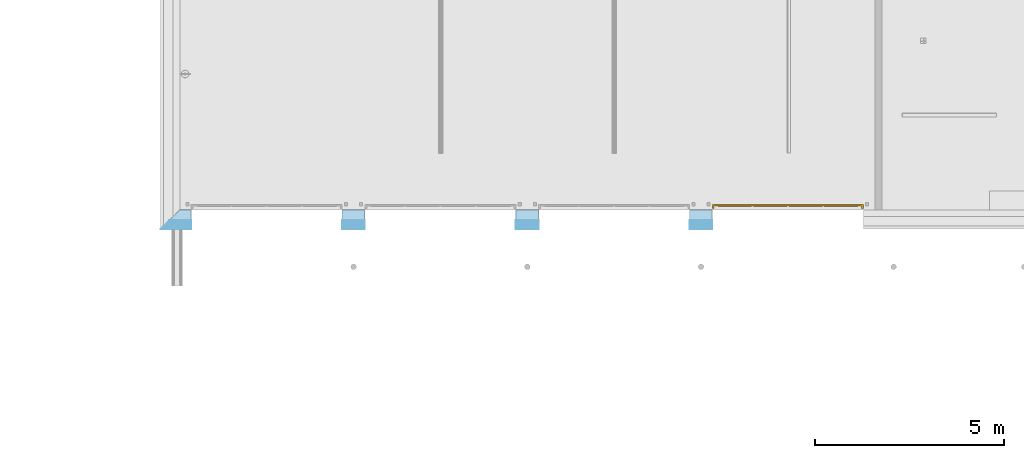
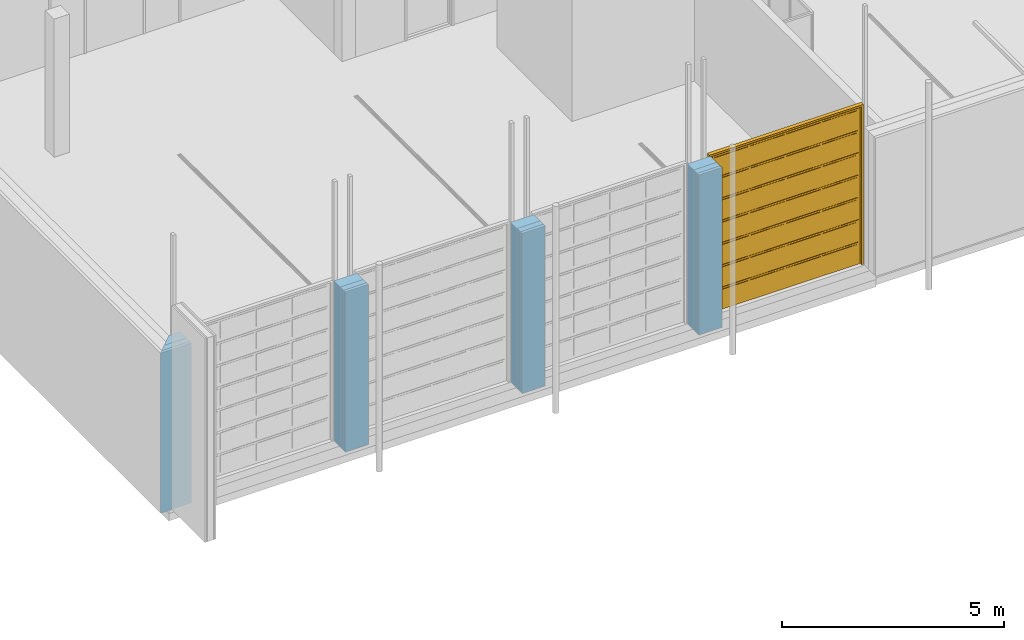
# One storey, part 23 of 112: 1 door, 4 openings, 1 element without a shape of its own, plus 3 elements that do not belong to this part.
"""IFC2X3 building model written with IfcOpenShell, lengths in millimetres."""

from ifc_helpers import new_model, entity, si_unit, converted_unit, derived_unit, money_unit, direction, frame, origin_with_axes, origin_2d_with_axis, place, context, subcontext, project, spatial, polyline, rectangle, outline, extrude, faceted_brep, source, transform, mapped, material, type_object, element, fill, aggregate, save


model = new_model("IFC2X3")

# Units and contexts
model_context = context("Model", 3, precision=0.01, world=origin_with_axes(), true_north=direction((0.0, 1.0)))
body_context = subcontext(model_context, "Body", "Model", "MODEL_VIEW")
ifc_project = project(units=[si_unit("LENGTHUNIT", "METRE", prefix="MILLI"), si_unit("AREAUNIT", "SQUARE_METRE"), si_unit("VOLUMEUNIT", "CUBIC_METRE"), converted_unit("PLANEANGLEUNIT", "DEGREE", entity("IfcPlaneAngleMeasure", 0.0174532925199), si_unit("PLANEANGLEUNIT", "RADIAN"), dimensions=[0, 0, 0, 0, 0, 0, 0]), si_unit("SOLIDANGLEUNIT", "STERADIAN"), money_unit("EUR"), converted_unit("TIMEUNIT", "Year", entity("IfcTimeMeasure", 31556926.0), si_unit("TIMEUNIT", "SECOND"), dimensions=[0, 0, 1, 0, 0, 0, 0]), si_unit("MASSUNIT", "GRAM", prefix="KILO"), si_unit("THERMODYNAMICTEMPERATUREUNIT", "DEGREE_CELSIUS"), si_unit("LUMINOUSINTENSITYUNIT", "LUMEN"), si_unit("ENERGYUNIT", "JOULE", prefix="MEGA"), derived_unit("THERMALCONDUCTANCEUNIT", [(si_unit("POWERUNIT", "WATT"), 1), (si_unit("LENGTHUNIT", "METRE"), -1), (si_unit("THERMODYNAMICTEMPERATUREUNIT", "KELVIN"), -1)]), derived_unit("SPECIFICHEATCAPACITYUNIT", [(si_unit("ENERGYUNIT", "JOULE"), 1), (si_unit("MASSUNIT", "GRAM", prefix="KILO"), -1), (si_unit("THERMODYNAMICTEMPERATUREUNIT", "KELVIN"), -1)]), derived_unit("MASSDENSITYUNIT", [(si_unit("MASSUNIT", "GRAM", prefix="KILO"), 1), (si_unit("VOLUMEUNIT", "CUBIC_METRE"), -1)])], contexts=[model_context])

# Site, building, storey
site_placement = place(None, origin_with_axes())
site = spatial("IfcSite", under=ifc_project, at=site_placement, Name="Politse- ja Piirivalveameti ning Päästeameti ühishoone", CompositionType="ELEMENT")
building_placement = place(site_placement, origin_with_axes())
building = spatial("IfcBuilding", under=site, at=building_placement, Name="Politse- ja Piirivalveameti ning Päästeameti ühishoone", CompositionType="ELEMENT")
storey_placement = place(building_placement, origin_with_axes())
storey = spatial("IfcBuildingStorey", under=building, at=storey_placement, Name="Esimene korrus", CompositionType="ELEMENT", Elevation=0.0)

# Door
door_style = type_object("IfcDoorStyle", Name="Vertical Sliding Garage Door 23", ConstructionType="NOTDEFINED", OperationType="ROLLINGUP", ParameterTakesPrecedence=False, Sizeable=False)
shared_shape = source(origin_with_axes(), body_context, "Body", "Brep", [
    faceted_brep([(2000.0, 0.0, 0.0), (2000.0, -100.0, 0.0), (1950.0, -100.0, 0.0), (1950.0, 0.0, 0.0), (2000.0, 0.0, 4350.0), (2000.0, -100.0, 4350.0), (1950.0, -100.0, 4350.0), (1950.0, 0.0, 4350.0)], [[[0, 1, 2, 3]], [[4, 5, 1, 0]], [[1, 5, 6, 2]], [[3, 2, 6, 7]], [[0, 3, 7, 4]], [[7, 6, 5, 4]]]),
    faceted_brep([(-2000.0, 0.0, 0.0), (-2000.0, -100.0, 0.0), (-2000.0, -100.0, 4350.0), (-2000.0, 0.0, 4350.0), (-1950.0, 0.0, 0.0), (-1950.0, -100.0, 0.0), (-1950.0, -100.0, 4350.0), (-1950.0, 0.0, 4350.0)], [[[0, 1, 2, 3]], [[4, 5, 1, 0]], [[1, 5, 6, 2]], [[3, 2, 6, 7]], [[0, 3, 7, 4]], [[7, 6, 5, 4]]]),
    faceted_brep([(2000.0, 0.0, 4400.0), (2000.0, -100.0, 4400.0), (2000.0, -100.0, 4350.0), (2000.0, 0.0, 4350.0), (-2000.0, 0.0, 4400.0), (-2000.0, -100.0, 4400.0), (-2000.0, -100.0, 4350.0), (-1950.0, -100.0, 4350.0), (1950.0, -100.0, 4350.0), (1950.0, 0.0, 4350.0), (-1950.0, 0.0, 4350.0), (-2000.0, 0.0, 4350.0)], [[[0, 1, 2, 3]], [[4, 5, 1, 0]], [[1, 5, 6, 7, 8, 2]], [[3, 2, 8, 9]], [[0, 3, 9, 10, 11, 4]], [[11, 6, 5, 4]], [[10, 7, 6, 11]], [[9, 8, 7, 10]]]),
    faceted_brep([(-1950.0, -5.5, 0.0), (1950.0, -5.5, 0.0), (1950.0, -35.5, 0.0), (-1950.0, -35.5, 0.0), (-1950.0, -5.5, 4350.0), (1950.0, -5.5, 4350.0), (1950.0, -35.5, 4350.0), (-1950.0, -35.5, 4350.0)], [[[0, 1, 2, 3]], [[0, 4, 5, 1]], [[1, 5, 6, 2]], [[3, 2, 6, 7]], [[4, 0, 3, 7]], [[5, 4, 7, 6]]]),
    faceted_brep([(1900.0, -35.5, 50.0), (-1900.0, -35.5, 50.0), (-1900.0, -35.5, 614.285714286), (1900.0, -35.5, 614.285714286), (1900.0, -45.5, 50.0), (-1900.0, -45.5, 50.0), (-1900.0, -45.5, 614.285714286), (1900.0, -45.5, 614.285714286)], [[[0, 1, 2, 3]], [[1, 0, 4, 5]], [[2, 1, 5, 6]], [[3, 2, 6, 7]], [[0, 3, 7, 4]], [[5, 4, 7, 6]]]),
    faceted_brep([(-962.5, -45.5, 100.0), (-1850.0, -45.5, 100.0), (-1850.0, -45.5, 564.285714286), (-962.5, -45.5, 564.285714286), (-962.5, -55.5, 100.0), (-1850.0, -55.5, 100.0), (-1850.0, -55.5, 564.285714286), (-962.5, -55.5, 564.285714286)], [[[0, 1, 2, 3]], [[1, 0, 4, 5]], [[2, 1, 5, 6]], [[3, 2, 6, 7]], [[0, 3, 7, 4]], [[5, 4, 7, 6]]]),
    faceted_brep([(-25.0, -45.5, 100.0), (-912.5, -45.5, 100.0), (-912.5, -45.5, 564.285714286), (-25.0, -45.5, 564.285714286), (-25.0, -55.5, 100.0), (-912.5, -55.5, 100.0), (-912.5, -55.5, 564.285714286), (-25.0, -55.5, 564.285714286)], [[[0, 1, 2, 3]], [[1, 0, 4, 5]], [[2, 1, 5, 6]], [[3, 2, 6, 7]], [[0, 3, 7, 4]], [[5, 4, 7, 6]]]),
    faceted_brep([(912.5, -45.5, 100.0), (25.0, -45.5, 100.0), (25.0, -45.5, 564.285714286), (912.5, -45.5, 564.285714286), (912.5, -55.5, 100.0), (25.0, -55.5, 100.0), (25.0, -55.5, 564.285714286), (912.5, -55.5, 564.285714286)], [[[0, 1, 2, 3]], [[1, 0, 4, 5]], [[2, 1, 5, 6]], [[3, 2, 6, 7]], [[0, 3, 7, 4]], [[5, 4, 7, 6]]]),
    faceted_brep([(1850.0, -45.5, 100.0), (962.5, -45.5, 100.0), (962.5, -45.5, 564.285714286), (1850.0, -45.5, 564.285714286), (1850.0, -55.5, 100.0), (962.5, -55.5, 100.0), (962.5, -55.5, 564.285714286), (1850.0, -55.5, 564.285714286)], [[[0, 1, 2, 3]], [[1, 0, 4, 5]], [[2, 1, 5, 6]], [[3, 2, 6, 7]], [[0, 3, 7, 4]], [[5, 4, 7, 6]]]),
    faceted_brep([(1900.0, -35.5, 664.285714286), (-1900.0, -35.5, 664.285714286), (-1900.0, -35.5, 1228.57142857), (1900.0, -35.5, 1228.57142857), (1900.0, -45.5, 664.285714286), (-1900.0, -45.5, 664.285714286), (-1900.0, -45.5, 1228.57142857), (1900.0, -45.5, 1228.57142857)], [[[0, 1, 2, 3]], [[1, 0, 4, 5]], [[2, 1, 5, 6]], [[3, 2, 6, 7]], [[0, 3, 7, 4]], [[5, 4, 7, 6]]]),
    faceted_brep([(-962.5, -45.5, 714.285714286), (-1850.0, -45.5, 714.285714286), (-1850.0, -45.5, 1178.57142857), (-962.5, -45.5, 1178.57142857), (-962.5, -55.5, 714.285714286), (-1850.0, -55.5, 714.285714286), (-1850.0, -55.5, 1178.57142857), (-962.5, -55.5, 1178.57142857)], [[[0, 1, 2, 3]], [[1, 0, 4, 5]], [[2, 1, 5, 6]], [[3, 2, 6, 7]], [[0, 3, 7, 4]], [[5, 4, 7, 6]]]),
    faceted_brep([(-25.0, -45.5, 714.285714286), (-912.5, -45.5, 714.285714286), (-912.5, -45.5, 1178.57142857), (-25.0, -45.5, 1178.57142857), (-25.0, -55.5, 714.285714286), (-912.5, -55.5, 714.285714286), (-912.5, -55.5, 1178.57142857), (-25.0, -55.5, 1178.57142857)], [[[0, 1, 2, 3]], [[1, 0, 4, 5]], [[2, 1, 5, 6]], [[3, 2, 6, 7]], [[0, 3, 7, 4]], [[5, 4, 7, 6]]]),
    faceted_brep([(912.5, -45.5, 714.285714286), (25.0, -45.5, 714.285714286), (25.0, -45.5, 1178.57142857), (912.5, -45.5, 1178.57142857), (912.5, -55.5, 714.285714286), (25.0, -55.5, 714.285714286), (25.0, -55.5, 1178.57142857), (912.5, -55.5, 1178.57142857)], [[[0, 1, 2, 3]], [[1, 0, 4, 5]], [[2, 1, 5, 6]], [[3, 2, 6, 7]], [[0, 3, 7, 4]], [[5, 4, 7, 6]]]),
    faceted_brep([(1850.0, -45.5, 714.285714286), (962.5, -45.5, 714.285714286), (962.5, -45.5, 1178.57142857), (1850.0, -45.5, 1178.57142857), (1850.0, -55.5, 714.285714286), (962.5, -55.5, 714.285714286), (962.5, -55.5, 1178.57142857), (1850.0, -55.5, 1178.57142857)], [[[0, 1, 2, 3]], [[1, 0, 4, 5]], [[2, 1, 5, 6]], [[3, 2, 6, 7]], [[0, 3, 7, 4]], [[5, 4, 7, 6]]]),
    faceted_brep([(1900.0, -35.5, 1278.57142857), (-1900.0, -35.5, 1278.57142857), (-1900.0, -35.5, 1842.85714286), (1900.0, -35.5, 1842.85714286), (1900.0, -45.5, 1278.57142857), (-1900.0, -45.5, 1278.57142857), (-1900.0, -45.5, 1842.85714286), (1900.0, -45.5, 1842.85714286)], [[[0, 1, 2, 3]], [[1, 0, 4, 5]], [[2, 1, 5, 6]], [[3, 2, 6, 7]], [[0, 3, 7, 4]], [[5, 4, 7, 6]]]),
    faceted_brep([(-962.5, -45.5, 1328.57142857), (-1850.0, -45.5, 1328.57142857), (-1850.0, -45.5, 1792.85714286), (-962.5, -45.5, 1792.85714286), (-962.5, -55.5, 1328.57142857), (-1850.0, -55.5, 1328.57142857), (-1850.0, -55.5, 1792.85714286), (-962.5, -55.5, 1792.85714286)], [[[0, 1, 2, 3]], [[1, 0, 4, 5]], [[2, 1, 5, 6]], [[3, 2, 6, 7]], [[0, 3, 7, 4]], [[5, 4, 7, 6]]]),
    faceted_brep([(-25.0, -45.5, 1328.57142857), (-912.5, -45.5, 1328.57142857), (-912.5, -45.5, 1792.85714286), (-25.0, -45.5, 1792.85714286), (-25.0, -55.5, 1328.57142857), (-912.5, -55.5, 1328.57142857), (-912.5, -55.5, 1792.85714286), (-25.0, -55.5, 1792.85714286)], [[[0, 1, 2, 3]], [[1, 0, 4, 5]], [[2, 1, 5, 6]], [[3, 2, 6, 7]], [[0, 3, 7, 4]], [[5, 4, 7, 6]]]),
    faceted_brep([(912.5, -45.5, 1328.57142857), (25.0, -45.5, 1328.57142857), (25.0, -45.5, 1792.85714286), (912.5, -45.5, 1792.85714286), (912.5, -55.5, 1328.57142857), (25.0, -55.5, 1328.57142857), (25.0, -55.5, 1792.85714286), (912.5, -55.5, 1792.85714286)], [[[0, 1, 2, 3]], [[1, 0, 4, 5]], [[2, 1, 5, 6]], [[3, 2, 6, 7]], [[0, 3, 7, 4]], [[5, 4, 7, 6]]]),
    faceted_brep([(1850.0, -45.5, 1328.57142857), (962.5, -45.5, 1328.57142857), (962.5, -45.5, 1792.85714286), (1850.0, -45.5, 1792.85714286), (1850.0, -55.5, 1328.57142857), (962.5, -55.5, 1328.57142857), (962.5, -55.5, 1792.85714286), (1850.0, -55.5, 1792.85714286)], [[[0, 1, 2, 3]], [[1, 0, 4, 5]], [[2, 1, 5, 6]], [[3, 2, 6, 7]], [[0, 3, 7, 4]], [[5, 4, 7, 6]]]),
    faceted_brep([(1900.0, -35.5, 1892.85714286), (-1900.0, -35.5, 1892.85714286), (-1900.0, -35.5, 2457.14285714), (1900.0, -35.5, 2457.14285714), (1900.0, -45.5, 1892.85714286), (-1900.0, -45.5, 1892.85714286), (-1900.0, -45.5, 2457.14285714), (1900.0, -45.5, 2457.14285714)], [[[0, 1, 2, 3]], [[1, 0, 4, 5]], [[2, 1, 5, 6]], [[3, 2, 6, 7]], [[0, 3, 7, 4]], [[5, 4, 7, 6]]]),
    faceted_brep([(-962.5, -45.5, 1942.85714286), (-1850.0, -45.5, 1942.85714286), (-1850.0, -45.5, 2407.14285714), (-962.5, -45.5, 2407.14285714), (-962.5, -55.5, 1942.85714286), (-1850.0, -55.5, 1942.85714286), (-1850.0, -55.5, 2407.14285714), (-962.5, -55.5, 2407.14285714)], [[[0, 1, 2, 3]], [[1, 0, 4, 5]], [[2, 1, 5, 6]], [[3, 2, 6, 7]], [[0, 3, 7, 4]], [[5, 4, 7, 6]]]),
    faceted_brep([(-25.0, -45.5, 1942.85714286), (-912.5, -45.5, 1942.85714286), (-912.5, -45.5, 2407.14285714), (-25.0, -45.5, 2407.14285714), (-25.0, -55.5, 1942.85714286), (-912.5, -55.5, 1942.85714286), (-912.5, -55.5, 2407.14285714), (-25.0, -55.5, 2407.14285714)], [[[0, 1, 2, 3]], [[1, 0, 4, 5]], [[2, 1, 5, 6]], [[3, 2, 6, 7]], [[0, 3, 7, 4]], [[5, 4, 7, 6]]]),
    faceted_brep([(912.5, -45.5, 1942.85714286), (25.0, -45.5, 1942.85714286), (25.0, -45.5, 2407.14285714), (912.5, -45.5, 2407.14285714), (912.5, -55.5, 1942.85714286), (25.0, -55.5, 1942.85714286), (25.0, -55.5, 2407.14285714), (912.5, -55.5, 2407.14285714)], [[[0, 1, 2, 3]], [[1, 0, 4, 5]], [[2, 1, 5, 6]], [[3, 2, 6, 7]], [[0, 3, 7, 4]], [[5, 4, 7, 6]]]),
    faceted_brep([(1850.0, -45.5, 1942.85714286), (962.5, -45.5, 1942.85714286), (962.5, -45.5, 2407.14285714), (1850.0, -45.5, 2407.14285714), (1850.0, -55.5, 1942.85714286), (962.5, -55.5, 1942.85714286), (962.5, -55.5, 2407.14285714), (1850.0, -55.5, 2407.14285714)], [[[0, 1, 2, 3]], [[1, 0, 4, 5]], [[2, 1, 5, 6]], [[3, 2, 6, 7]], [[0, 3, 7, 4]], [[5, 4, 7, 6]]]),
    faceted_brep([(1900.0, -35.5, 2507.14285714), (-1900.0, -35.5, 2507.14285714), (-1900.0, -35.5, 3071.42857143), (1900.0, -35.5, 3071.42857143), (1900.0, -45.5, 2507.14285714), (-1900.0, -45.5, 2507.14285714), (-1900.0, -45.5, 3071.42857143), (1900.0, -45.5, 3071.42857143)], [[[0, 1, 2, 3]], [[1, 0, 4, 5]], [[2, 1, 5, 6]], [[3, 2, 6, 7]], [[0, 3, 7, 4]], [[5, 4, 7, 6]]]),
    faceted_brep([(-962.5, -45.5, 2557.14285714), (-1850.0, -45.5, 2557.14285714), (-1850.0, -45.5, 3021.42857143), (-962.5, -45.5, 3021.42857143), (-962.5, -55.5, 2557.14285714), (-1850.0, -55.5, 2557.14285714), (-1850.0, -55.5, 3021.42857143), (-962.5, -55.5, 3021.42857143)], [[[0, 1, 2, 3]], [[1, 0, 4, 5]], [[2, 1, 5, 6]], [[3, 2, 6, 7]], [[0, 3, 7, 4]], [[5, 4, 7, 6]]]),
    faceted_brep([(-25.0, -45.5, 2557.14285714), (-912.5, -45.5, 2557.14285714), (-912.5, -45.5, 3021.42857143), (-25.0, -45.5, 3021.42857143), (-25.0, -55.5, 2557.14285714), (-912.5, -55.5, 2557.14285714), (-912.5, -55.5, 3021.42857143), (-25.0, -55.5, 3021.42857143)], [[[0, 1, 2, 3]], [[1, 0, 4, 5]], [[2, 1, 5, 6]], [[3, 2, 6, 7]], [[0, 3, 7, 4]], [[5, 4, 7, 6]]]),
    faceted_brep([(912.5, -45.5, 2557.14285714), (25.0, -45.5, 2557.14285714), (25.0, -45.5, 3021.42857143), (912.5, -45.5, 3021.42857143), (912.5, -55.5, 2557.14285714), (25.0, -55.5, 2557.14285714), (25.0, -55.5, 3021.42857143), (912.5, -55.5, 3021.42857143)], [[[0, 1, 2, 3]], [[1, 0, 4, 5]], [[2, 1, 5, 6]], [[3, 2, 6, 7]], [[0, 3, 7, 4]], [[5, 4, 7, 6]]]),
    faceted_brep([(1850.0, -45.5, 2557.14285714), (962.5, -45.5, 2557.14285714), (962.5, -45.5, 3021.42857143), (1850.0, -45.5, 3021.42857143), (1850.0, -55.5, 2557.14285714), (962.5, -55.5, 2557.14285714), (962.5, -55.5, 3021.42857143), (1850.0, -55.5, 3021.42857143)], [[[0, 1, 2, 3]], [[1, 0, 4, 5]], [[2, 1, 5, 6]], [[3, 2, 6, 7]], [[0, 3, 7, 4]], [[5, 4, 7, 6]]]),
    faceted_brep([(1900.0, -35.5, 3121.42857143), (-1900.0, -35.5, 3121.42857143), (-1900.0, -35.5, 3685.71428571), (1900.0, -35.5, 3685.71428571), (1900.0, -45.5, 3121.42857143), (-1900.0, -45.5, 3121.42857143), (-1900.0, -45.5, 3685.71428571), (1900.0, -45.5, 3685.71428571)], [[[0, 1, 2, 3]], [[1, 0, 4, 5]], [[2, 1, 5, 6]], [[3, 2, 6, 7]], [[0, 3, 7, 4]], [[5, 4, 7, 6]]]),
    faceted_brep([(-962.5, -45.5, 3171.42857143), (-1850.0, -45.5, 3171.42857143), (-1850.0, -45.5, 3635.71428571), (-962.5, -45.5, 3635.71428571), (-962.5, -55.5, 3171.42857143), (-1850.0, -55.5, 3171.42857143), (-1850.0, -55.5, 3635.71428571), (-962.5, -55.5, 3635.71428571)], [[[0, 1, 2, 3]], [[1, 0, 4, 5]], [[2, 1, 5, 6]], [[3, 2, 6, 7]], [[0, 3, 7, 4]], [[5, 4, 7, 6]]]),
    faceted_brep([(-25.0, -45.5, 3171.42857143), (-912.5, -45.5, 3171.42857143), (-912.5, -45.5, 3635.71428571), (-25.0, -45.5, 3635.71428571), (-25.0, -55.5, 3171.42857143), (-912.5, -55.5, 3171.42857143), (-912.5, -55.5, 3635.71428571), (-25.0, -55.5, 3635.71428571)], [[[0, 1, 2, 3]], [[1, 0, 4, 5]], [[2, 1, 5, 6]], [[3, 2, 6, 7]], [[0, 3, 7, 4]], [[5, 4, 7, 6]]]),
    faceted_brep([(912.5, -45.5, 3171.42857143), (25.0, -45.5, 3171.42857143), (25.0, -45.5, 3635.71428571), (912.5, -45.5, 3635.71428571), (912.5, -55.5, 3171.42857143), (25.0, -55.5, 3171.42857143), (25.0, -55.5, 3635.71428571), (912.5, -55.5, 3635.71428571)], [[[0, 1, 2, 3]], [[1, 0, 4, 5]], [[2, 1, 5, 6]], [[3, 2, 6, 7]], [[0, 3, 7, 4]], [[5, 4, 7, 6]]]),
    faceted_brep([(1850.0, -45.5, 3171.42857143), (962.5, -45.5, 3171.42857143), (962.5, -45.5, 3635.71428571), (1850.0, -45.5, 3635.71428571), (1850.0, -55.5, 3171.42857143), (962.5, -55.5, 3171.42857143), (962.5, -55.5, 3635.71428571), (1850.0, -55.5, 3635.71428571)], [[[0, 1, 2, 3]], [[1, 0, 4, 5]], [[2, 1, 5, 6]], [[3, 2, 6, 7]], [[0, 3, 7, 4]], [[5, 4, 7, 6]]]),
    faceted_brep([(1900.0, -35.5, 3735.71428571), (-1900.0, -35.5, 3735.71428571), (-1900.0, -35.5, 4300.0), (1900.0, -35.5, 4300.0), (1900.0, -45.5, 3735.71428571), (-1900.0, -45.5, 3735.71428571), (-1900.0, -45.5, 4300.0), (1900.0, -45.5, 4300.0)], [[[0, 1, 2, 3]], [[1, 0, 4, 5]], [[2, 1, 5, 6]], [[3, 2, 6, 7]], [[0, 3, 7, 4]], [[5, 4, 7, 6]]]),
    faceted_brep([(-962.5, -45.5, 3785.71428571), (-1850.0, -45.5, 3785.71428571), (-1850.0, -45.5, 4250.0), (-962.5, -45.5, 4250.0), (-962.5, -55.5, 3785.71428571), (-1850.0, -55.5, 3785.71428571), (-1850.0, -55.5, 4250.0), (-962.5, -55.5, 4250.0)], [[[0, 1, 2, 3]], [[1, 0, 4, 5]], [[2, 1, 5, 6]], [[3, 2, 6, 7]], [[0, 3, 7, 4]], [[5, 4, 7, 6]]]),
    faceted_brep([(-25.0, -45.5, 3785.71428571), (-912.5, -45.5, 3785.71428571), (-912.5, -45.5, 4250.0), (-25.0, -45.5, 4250.0), (-25.0, -55.5, 3785.71428571), (-912.5, -55.5, 3785.71428571), (-912.5, -55.5, 4250.0), (-25.0, -55.5, 4250.0)], [[[0, 1, 2, 3]], [[1, 0, 4, 5]], [[2, 1, 5, 6]], [[3, 2, 6, 7]], [[0, 3, 7, 4]], [[5, 4, 7, 6]]]),
    faceted_brep([(912.5, -45.5, 3785.71428571), (25.0, -45.5, 3785.71428571), (25.0, -45.5, 4250.0), (912.5, -45.5, 4250.0), (912.5, -55.5, 3785.71428571), (25.0, -55.5, 3785.71428571), (25.0, -55.5, 4250.0), (912.5, -55.5, 4250.0)], [[[0, 1, 2, 3]], [[1, 0, 4, 5]], [[2, 1, 5, 6]], [[3, 2, 6, 7]], [[0, 3, 7, 4]], [[5, 4, 7, 6]]]),
    faceted_brep([(1850.0, -45.5, 3785.71428571), (962.5, -45.5, 3785.71428571), (962.5, -45.5, 4250.0), (1850.0, -45.5, 4250.0), (1850.0, -55.5, 3785.71428571), (962.5, -55.5, 3785.71428571), (962.5, -55.5, 4250.0), (1850.0, -55.5, 4250.0)], [[[0, 1, 2, 3]], [[1, 0, 4, 5]], [[2, 1, 5, 6]], [[3, 2, 6, 7]], [[0, 3, 7, 4]], [[5, 4, 7, 6]]]),
])
wall_placement = place(storey_placement, origin_with_axes())
opening_3_placement = place(wall_placement, frame((16099.6782559, 0.0, 0.0), z_axis=(0.0, 0.0, 1.0), x_axis=(1.0, 0.0, 0.0)))
door_placement = place(opening_3_placement, frame((-2000.0, 0.0, 0.0), z_axis=(0.0, 0.0, 1.0), x_axis=(1.0, 0.0, 0.0)))
door = element("IfcDoor", 1, at=door_placement, inside=storey, type_object=door_style, Name="TV-07", ObjectType="DOOR", OverallHeight=4400.0, OverallWidth=4000.0, context=body_context, shape_type="MappedRepresentation", body=[
    mapped(shared_shape, transform((2000.0, 140.0, 0.0))),
])

# Wall, openings
wall_type = type_object("IfcWallType", Name="VS-14_välissein gar uste vahel 510", PredefinedType="NOTDEFINED")
wall = element("IfcWall", 2, at=wall_placement, inside=storey, type_object=wall_type, Name="VS-14")
opening_1_placement = place(wall_placement, frame((6899.66559551, 0.0, 0.0), z_axis=(0.0, 0.0, 1.0), x_axis=(1.0, 0.0, 0.0)))
element("IfcOpeningElement", 3, at=opening_1_placement, cuts=wall, Name="TV-07", context=body_context, shape_type="SweptSolid", body=[
    extrude(rectangle(XDim=4000.0, YDim=4400.0, at=origin_2d_with_axis()), frame((0.0, 40.0, 2200.0), z_axis=(0.0, -1.0, 0.0), x_axis=(-1.0, 0.0, 0.0)), (0.0, 0.0, 1.0), 1060.0),
    extrude(outline(polyline([(-2000.0, 8800.0), (-2000.0, 4400.0), (2000.0, 4400.0), (2000.0, 8800.0), (-2000.0, 8800.0)])), frame((0.0, 135.0, 0.0), z_axis=(0.0, 1.0, 0.0), x_axis=(-1.0, 0.0, 0.0)), (0.0, 0.0, -1.0), 45.0),
    extrude(rectangle(XDim=4000.0, YDim=4400.0, at=origin_2d_with_axis()), frame((0.0, 40.0, 2200.0), z_axis=(0.0, 1.0, 0.0), x_axis=(-1.0, 0.0, 0.0)), (0.0, 0.0, 1.0), 550.0),
])
opening_2_placement = place(wall_placement, frame((11499.3611204, 0.0, 0.0), z_axis=(0.0, 0.0, 1.0), x_axis=(1.0, 0.0, 0.0)))
element("IfcOpeningElement", 4, at=opening_2_placement, cuts=wall, Name="TV-07", context=body_context, shape_type="SweptSolid", body=[
    extrude(rectangle(XDim=4000.0, YDim=4400.0, at=origin_2d_with_axis()), frame((0.0, 40.0, 2200.0), z_axis=(0.0, 1.0, 0.0), x_axis=(1.0, 0.0, 0.0)), (0.0, 0.0, -1.0), 1060.0),
    extrude(outline(polyline([(-2000.0, 8800.0), (-2000.0, 4400.0), (2000.0, 4400.0), (2000.0, 8800.0), (-2000.0, 8800.0)])), frame((0.0, 135.0, 0.0), z_axis=(0.0, -1.0, 0.0), x_axis=(1.0, 0.0, 0.0)), (0.0, 0.0, 1.0), 45.0),
    extrude(rectangle(XDim=4000.0, YDim=4400.0, at=origin_2d_with_axis()), frame((0.0, 40.0, 2200.0), z_axis=(0.0, -1.0, 0.0), x_axis=(1.0, 0.0, 0.0)), (0.0, 0.0, -1.0), 550.0),
])
opening_3 = element("IfcOpeningElement", 5, at=opening_3_placement, cuts=wall, Name="TV-07", context=body_context, shape_type="SweptSolid", body=[
    extrude(rectangle(XDim=4000.0, YDim=4400.0, at=origin_2d_with_axis()), frame((0.0, 40.0, 2200.0), z_axis=(0.0, -1.0, 0.0), x_axis=(-1.0, 0.0, 0.0)), (0.0, 0.0, 1.0), 1060.0),
    extrude(outline(polyline([(-2000.0, 8800.0), (-2000.0, 4400.0), (2000.0, 4400.0), (2000.0, 8800.0), (-2000.0, 8800.0)])), frame((0.0, 135.0, 0.0), z_axis=(0.0, 1.0, 0.0), x_axis=(-1.0, 0.0, 0.0)), (0.0, 0.0, -1.0), 45.0),
    extrude(rectangle(XDim=4000.0, YDim=4400.0, at=origin_2d_with_axis()), frame((0.0, 40.0, 2200.0), z_axis=(0.0, 1.0, 0.0), x_axis=(-1.0, 0.0, 0.0)), (0.0, 0.0, 1.0), 550.0),
])

fill(opening_3, door)

# Opening
opening_4_placement = place(wall_placement, frame((2299.34846005, 0.0, 0.0), z_axis=(0.0, 0.0, 1.0), x_axis=(1.0, 0.0, 0.0)))
element("IfcOpeningElement", 6, at=opening_4_placement, cuts=wall, Name="TV-07", context=body_context, shape_type="SweptSolid", body=[
    extrude(rectangle(XDim=4000.0, YDim=4400.0, at=origin_2d_with_axis()), frame((0.0, 40.0, 2200.0), z_axis=(0.0, 1.0, 0.0), x_axis=(1.0, 0.0, 0.0)), (0.0, 0.0, -1.0), 1060.0),
    extrude(outline(polyline([(-2000.0, 8800.0), (-2000.0, 4400.0), (2000.0, 4400.0), (2000.0, 8800.0), (-2000.0, 8800.0)])), frame((0.0, 135.0, 0.0), z_axis=(0.0, -1.0, 0.0), x_axis=(1.0, 0.0, 0.0)), (0.0, 0.0, 1.0), 45.0),
    extrude(rectangle(XDim=4000.0, YDim=4400.0, at=origin_2d_with_axis()), frame((0.0, 40.0, 2200.0), z_axis=(0.0, -1.0, 0.0), x_axis=(1.0, 0.0, 0.0)), (0.0, 0.0, -1.0), 550.0),
])

# Building element part
ifc_material_1 = material(Name="KON-04_Betoon - Konstuktsioon")
building_element_part_1_placement = place(wall_placement, origin_with_axes())
building_element_part_1 = element("IfcBuildingElementPart", 7, at=building_element_part_1_placement, material=ifc_material_1, Name="KON-04_Betoon - Konstuktsioon", context=body_context, shape_type="SweptSolid", body=[
    extrude(outline(polyline([(-280.0, -280.0), (18099.6782559, -280.0), (18099.6782559, 0.0), (0.0, 0.0), (-280.0, -280.0)])), origin_with_axes(), (0.0, 0.0, 1.0), 4400.0),
])

ifc_material_2 = material(Name="SOJ-06_Soojustus - Plastik Kõva")
building_element_part_2_placement = place(wall_placement, origin_with_axes())
building_element_part_2 = element("IfcBuildingElementPart", 8, at=building_element_part_2_placement, material=ifc_material_2, Name="SOJ-06_Soojustus - Plastik Kõva", context=body_context, shape_type="SweptSolid", body=[
    extrude(outline(polyline([(-430.0, -430.0), (18099.6782559, -430.0), (18099.6782559, -280.0), (-280.0, -280.0), (-430.0, -430.0)])), origin_with_axes(), (0.0, 0.0, 1.0), 4400.0),
])

building_element_part_3_placement = place(wall_placement, origin_with_axes())
building_element_part_3 = element("IfcBuildingElementPart", 9, at=building_element_part_3_placement, material=ifc_material_1, Name="KON-04_Betoon - Konstuktsioon", context=body_context, shape_type="SweptSolid", body=[
    extrude(outline(polyline([(-510.0, -510.0), (18099.6782559, -510.0), (18099.6782559, -430.0), (-430.0, -430.0), (-510.0, -510.0)])), origin_with_axes(), (0.0, 0.0, 1.0), 4400.0),
])

aggregate(wall, [building_element_part_1, building_element_part_2, building_element_part_3])

save(model, "model.ifc")
